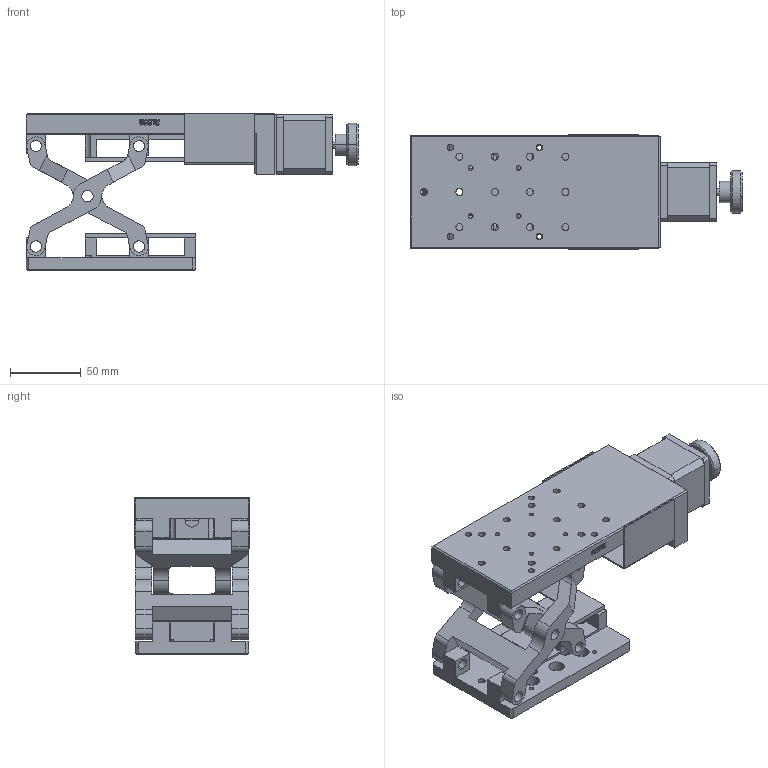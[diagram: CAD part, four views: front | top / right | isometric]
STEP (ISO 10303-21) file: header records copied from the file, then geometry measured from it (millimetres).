
FILE_DESCRIPTION (( 'STEP AP214' ), '1' );
FILE_NAME ('PT - GD401µç¶¯Éý½µÌ¨.STEP', '2022-09-24T07:50:48', ( '' ), ( '' ), 'SwSTEP 2.0', 'SolidWorks 2017', '' );
FILE_SCHEMA (( 'AUTOMOTIVE_DESIGN' ));
Length unit declared in the file: millimetre
Products named in the file (10): ____-60____^PT - GD401萇雄汔蔥怢; ______^PT - GD401萇雄汔蔥怢; ____-2^PT - GD401萇雄汔蔥怢; ______-0^PT - GD401萇雄汔蔥怢; ________^PT - GD401萇雄汔蔥怢; ____^PT - GD401萇雄汔蔥怢; ZS10-60____^PT - GD401萇雄汔蔥怢; PT - GD401萇雄汔蔥怢; YK42____^PT - GD401萇雄汔蔥怢; ZS10-60____-1^PT - GD401萇雄汔蔥怢
Assembly tree (10 placements, depth 2):
  PT - GD401萇雄汔蔥怢
    ZS10-60____^PT - GD401萇雄汔蔥怢
    ______^PT - GD401萇雄汔蔥怢
    ______-0^PT - GD401萇雄汔蔥怢
    ZS10-60____-1^PT - GD401萇雄汔蔥怢
    ____^PT - GD401萇雄汔蔥怢
    ________^PT - GD401萇雄汔蔥怢
    ____-2^PT - GD401萇雄汔蔥怢  x2
    YK42____^PT - GD401萇雄汔蔥怢
    ____-60____^PT - GD401萇雄汔蔥怢
Bounding box: 235 x 82 x 111.1 mm (x, y, z)
Volume: 544739.4 mm3; surface area: 167768.3 mm2
Topology: 14 solids, 14 shells, 672 faces, 1829 edges, 1207 vertices
Faces by surface type: plane 359, cylinder 230, bspline 76, cone 7
Entity records: 25102 total; most frequent: CARTESIAN_POINT 7636, ORIENTED_EDGE 3634, DIRECTION 3320, EDGE_CURVE 1817, VERTEX_POINT 1199, LINE 1166, VECTOR 1166, AXIS2_PLACEMENT_3D 1077
